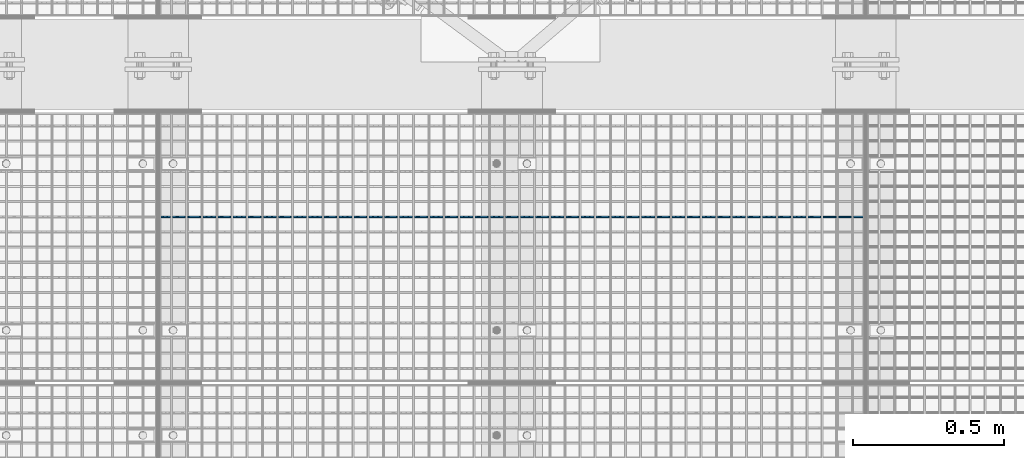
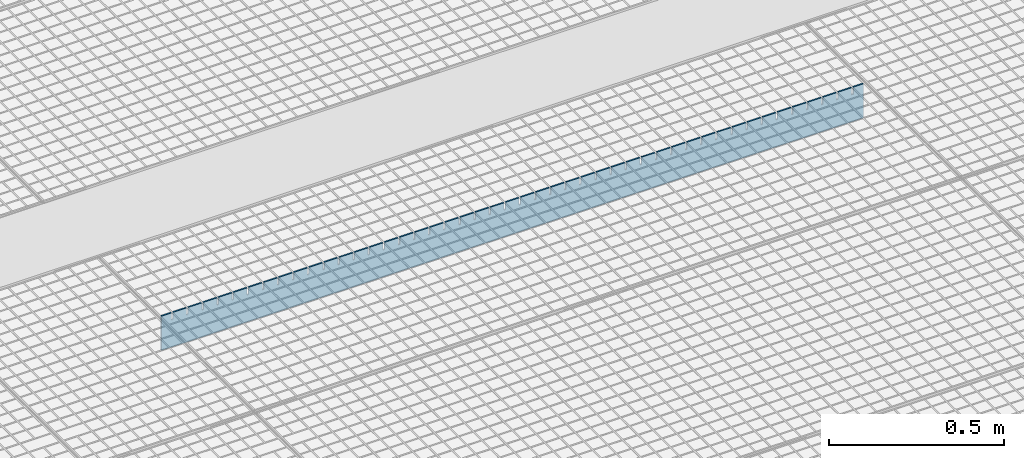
# One storey, part 388 of 1530: 1 beam.
"""IFC2X3 building model written with IfcOpenShell, lengths in millimetres."""

from ifc_helpers import new_model, si_unit, frame, origin_with_axes, place, context, subcontext, project, spatial, faceted_brep, material, type_object, element, save


model = new_model("IFC2X3")

# Units and contexts
model_context = context("Model", 3, precision=1e-05, world=origin_with_axes())
body_context = subcontext(model_context, "Body", "Model", "MODEL_VIEW")
ifc_project = project(units=[si_unit("LENGTHUNIT", "METRE", prefix="MILLI"), si_unit("AREAUNIT", "SQUARE_METRE"), si_unit("VOLUMEUNIT", "CUBIC_METRE"), si_unit("MASSUNIT", "GRAM", prefix="KILO"), si_unit("TIMEUNIT", "SECOND"), si_unit("PLANEANGLEUNIT", "RADIAN"), si_unit("SOLIDANGLEUNIT", "STERADIAN"), si_unit("THERMODYNAMICTEMPERATUREUNIT", "DEGREE_CELSIUS"), si_unit("LUMINOUSINTENSITYUNIT", "LUMEN")], contexts=[model_context])

# Site, building, storey
site_placement = place(None, origin_with_axes())
site = spatial("IfcSite", under=ifc_project, at=site_placement, Name="Brattvåg", CompositionType="ELEMENT")
building_placement = place(site_placement, origin_with_axes())
building = spatial("IfcBuilding", under=site, at=building_placement, Name="Undefined", CompositionType="ELEMENT")
storey_placement = place(building_placement, origin_with_axes())
storey = spatial("IfcBuildingStorey", under=building, at=storey_placement, Name="Undefined", CompositionType="ELEMENT", Elevation=0.0)

# Beam
ifc_material = material(Name="STEEL/S355J2")
beam_type = type_object("IfcBeamType", Name="120*5", PredefinedType="NOTDEFINED")
beam_placement = place(storey_placement, frame((5234.01317977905, 5496.99487304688, -59.9998626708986), z_axis=(0.0, 0.0, 1.0), x_axis=(-1.0, 1.99999855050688e-09, 0.0)))
element("IfcBeam", 1, at=beam_placement, inside=storey, type_object=beam_type, material=ifc_material, Name="GRATING", context=body_context, shape_type="Brep", body=[
    faceted_brep([(83.5790367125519, -2.50000000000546, 60.0000722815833), (83.5790367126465, -2.50000000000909, 35.0001373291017), (83.5790367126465, 2.50022888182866, 35.0001373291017), (83.5790367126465, 2.5, 60.0), (88.5790367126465, -2.50000000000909, 35.0001373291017), (88.5790367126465, 2.50022888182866, 35.0001373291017), (88.5790367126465, -2.50000000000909, 60.0001373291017), (88.5790367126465, 2.5, 60.0), (38.6284370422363, -2.50000000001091, 60.0001373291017), (38.6284370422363, 2.5, 60.0), (38.6284370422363, 2.49999999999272, 35.0001373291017), (38.6284370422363, -2.50000000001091, 35.0001373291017), (33.6284370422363, 2.49999999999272, 35.0001373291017), (33.6284370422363, -2.50000000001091, 35.0001373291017), (33.6284370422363, -2.5, 60.0), (33.6284370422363, 2.5, 60.0), (0.0, 2.5, 60.0), (0.0, -2.5, 60.0), (0.0, -2.5, -60.0), (0.0, 2.5, -60.0), (2319.99865722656, 2.5, -60.0), (2319.99865722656, -2.5, -60.0), (2319.99865722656, -2.5, 60.0), (2319.99865722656, 2.5, 60.0), (2286.37871932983, 2.5, 60.0), (2286.37871932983, -2.50000000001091, 60.0001373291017), (2286.37871932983, 2.49999999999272, 35.0001373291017), (2286.37871932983, -2.50000000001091, 35.0001373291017), (2281.37871932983, 2.49999999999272, 35.0001373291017), (2281.37871932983, -2.50000000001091, 35.0001373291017), (2281.37871932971, -2.50000000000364, 60.0000634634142), (2281.37871932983, 2.5, 60.0), (2236.42859649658, 2.5, 60.0), (2236.42859649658, -2.50000000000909, 60.0001373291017), (2236.42859649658, 2.50022888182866, 35.0001373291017), (2236.42859649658, -2.50000000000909, 35.0001373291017), (2231.42859649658, 2.50022888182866, 35.0001373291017), (2231.42859649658, -2.50000000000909, 35.0001373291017), (2231.42859649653, -2.50000000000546, 60.0000910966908), (2231.42859649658, 2.5, 60.0), (2186.47847366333, 2.5, 60.0), (2186.47847366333, -2.50000000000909, 60.0001373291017), (2186.47847366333, 2.50022888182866, 35.0001373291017), (2186.47847366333, -2.50000000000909, 35.0001373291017), (2181.47847366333, 2.50022888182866, 35.0001373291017), (2181.47847366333, -2.50000000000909, 35.0001373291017), (2181.47847366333, -2.5, 60.0), (2181.47847366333, 2.5, 60.0), (2136.52882766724, 2.5, 60.0), (2136.52882766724, -2.50000000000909, 60.0001373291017), (2136.52882766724, 2.50022888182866, 35.0001373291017), (2136.52882766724, -2.50000000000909, 35.0001373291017), (2131.52882766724, 2.50022888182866, 35.0001373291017), (2131.52882766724, -2.50000000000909, 35.0001373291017), (2131.52882766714, -2.50000000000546, 60.0000722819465), (2131.52882766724, 2.5, 60.0), (2086.57870483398, 2.5, 60.0), (2086.57870483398, -2.50000000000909, 60.0001373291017), (2086.57870483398, 2.50022888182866, 35.0001373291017), (2086.57870483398, -2.50000000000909, 35.0001373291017), (2081.57870483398, 2.50022888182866, 35.0001373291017), (2081.57870483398, -2.50000000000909, 35.0001373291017), (2081.57870483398, -2.5, 60.0), (2081.57870483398, 2.5, 60.0), (2036.62858200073, 2.5, 60.0), (2036.62858200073, -2.50000000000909, 60.0001373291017), (2036.62858200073, 2.50022888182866, 35.0001373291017), (2036.62858200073, -2.50000000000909, 35.0001373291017), (2031.62858200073, 2.50022888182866, 35.0001373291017), (2031.62858200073, -2.50000000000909, 35.0001373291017), (2031.62858200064, -2.50000000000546, 60.0000722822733), (2031.62858200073, 2.5, 60.0), (1986.67845916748, 2.5, 60.0), (1986.67845916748, -2.50000000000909, 60.0001373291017), (1986.67845916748, 2.50022888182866, 35.0001373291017), (1986.67845916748, -2.50000000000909, 35.0001373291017), (1981.67845916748, 2.50022888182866, 35.0001373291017), (1981.67845916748, -2.50000000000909, 35.0001373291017), (1981.67845916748, -2.5, 60.0), (1981.67845916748, 2.5, 60.0), (1936.72881317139, 2.5, 60.0), (1936.72881317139, -2.50000000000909, 60.0001373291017), (1936.72881317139, 2.50022888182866, 35.0001373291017), (1936.72881317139, -2.50000000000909, 35.0001373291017), (1931.72881317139, 2.50022888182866, 35.0001373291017), (1931.72881317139, -2.50000000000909, 35.0001373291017), (1931.72881317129, -2.50000000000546, 60.0000722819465), (1931.72881317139, 2.5, 60.0), (1886.77869033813, 2.5, 60.0), (1886.77869033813, -2.50000000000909, 60.0001373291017), (1886.77869033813, 2.50022888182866, 35.0001373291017), (1886.77869033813, -2.50000000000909, 35.0001373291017), (1881.77869033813, 2.50022888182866, 35.0001373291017), (1881.77869033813, -2.50000000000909, 35.0001373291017), (1881.77869033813, -2.5, 60.0), (1881.77869033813, 2.5, 60.0), (1836.82856750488, 2.5, 60.0), (1836.82856750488, -2.50000000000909, 60.0001373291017), (1836.82856750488, 2.50022888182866, 35.0001373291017), (1836.82856750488, -2.50000000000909, 35.0001373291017), (1831.82856750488, 2.50022888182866, 35.0001373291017), (1831.82856750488, -2.50000000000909, 35.0001373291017), (1831.82856750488, -2.5, 60.0), (1831.82856750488, 2.5, 60.0), (1786.87892150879, 2.5, 60.0), (1786.87892150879, -2.50000000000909, 60.0001373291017), (1786.87892150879, 2.50022888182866, 35.0001373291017), (1786.87892150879, -2.50000000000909, 35.0001373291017), (1781.87892150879, 2.50022888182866, 35.0001373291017), (1781.87892150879, -2.50000000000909, 35.0001373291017), (1781.87892150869, -2.50000000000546, 60.0000722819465), (1781.87892150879, 2.5, 60.0), (1736.92879867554, 2.5, 60.0), (1736.92879867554, -2.50000000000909, 60.0001373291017), (1736.92879867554, 2.50022888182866, 35.0001373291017), (1736.92879867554, -2.50000000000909, 35.0001373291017), (1731.92879867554, 2.50022888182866, 35.0001373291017), (1731.92879867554, -2.50000000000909, 35.0001373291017), (1731.92879867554, -2.5, 60.0), (1731.92879867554, 2.5, 60.0), (1686.97867584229, 2.5, 60.0), (1686.97867584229, -2.50000000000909, 60.0001373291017), (1686.97867584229, 2.50022888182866, 35.0001373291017), (1686.97867584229, -2.50000000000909, 35.0001373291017), (1681.97867584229, 2.50022888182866, 35.0001373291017), (1681.97867584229, -2.50000000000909, 35.0001373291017), (1681.97867584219, -2.50000000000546, 60.0000722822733), (1681.97867584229, 2.5, 60.0), (1637.02855300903, 2.5, 60.0), (1637.02855300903, -2.50000000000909, 60.0001373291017), (1637.02855300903, 2.50022888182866, 35.0001373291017), (1637.02855300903, -2.50000000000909, 35.0001373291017), (1632.02855300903, 2.50022888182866, 35.0001373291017), (1632.02855300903, -2.50000000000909, 35.0001373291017), (1632.02855300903, -2.5, 60.0), (1632.02855300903, 2.5, 60.0), (1587.07890701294, 2.5, 60.0), (1587.07890701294, -2.50000000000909, 60.0001373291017), (1587.07890701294, 2.50022888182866, 35.0001373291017), (1587.07890701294, -2.50000000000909, 35.0001373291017), (1582.07890701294, 2.50022888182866, 35.0001373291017), (1582.07890701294, -2.50000000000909, 35.0001373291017), (1582.07890701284, -2.50000000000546, 60.0000722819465), (1582.07890701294, 2.5, 60.0), (1537.12878417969, 2.5, 60.0), (1537.12878417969, -2.50000000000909, 60.0001373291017), (1537.12878417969, 2.50022888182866, 35.0001373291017), (1537.12878417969, -2.50000000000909, 35.0001373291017), (1532.12878417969, 2.50022888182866, 35.0001373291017), (1532.12878417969, -2.50000000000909, 35.0001373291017), (1532.12878417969, -2.5, 60.0), (1532.12878417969, 2.5, 60.0), (1487.17866134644, 2.5, 60.0), (1487.17866134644, -2.50000000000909, 60.0001373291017), (1487.17866134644, 2.50022888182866, 35.0001373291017), (1487.17866134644, -2.50000000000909, 35.0001373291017), (1482.17866134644, 2.50022888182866, 35.0001373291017), (1482.17866134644, -2.50000000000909, 35.0001373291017), (1482.17866134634, -2.50000000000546, 60.0000722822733), (1482.17866134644, 2.5, 60.0), (1437.22853851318, 2.5, 60.0), (1437.22853851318, -2.50000000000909, 60.0001373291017), (1437.22853851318, 2.50022888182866, 35.0001373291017), (1437.22853851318, -2.50000000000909, 35.0001373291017), (1432.22853851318, 2.50022888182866, 35.0001373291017), (1432.22853851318, -2.50000000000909, 35.0001373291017), (1432.22853851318, -2.5, 60.0), (1432.22853851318, 2.5, 60.0), (1387.27889251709, 2.5, 60.0), (1387.27889251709, -2.50000000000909, 60.0001373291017), (1387.27889251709, 2.50022888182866, 35.0001373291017), (1387.27889251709, -2.50000000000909, 35.0001373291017), (1382.27889251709, 2.50022888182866, 35.0001373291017), (1382.27889251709, -2.50000000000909, 35.0001373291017), (1382.278892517, -2.50000000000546, 60.0000722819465), (1382.27889251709, 2.5, 60.0), (1337.32876968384, 2.5, 60.0), (1337.32876968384, -2.50000000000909, 60.0001373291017), (1337.32876968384, 2.50022888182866, 35.0001373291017), (1337.32876968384, -2.50000000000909, 35.0001373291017), (1332.32876968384, 2.50022888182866, 35.0001373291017), (1332.32876968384, -2.50000000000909, 35.0001373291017), (1332.32876968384, -2.5, 60.0), (1332.32876968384, 2.5, 60.0), (1287.37864685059, 2.5, 60.0), (1287.37864685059, -2.50000000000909, 60.0001373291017), (1287.37864685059, 2.50022888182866, 35.0001373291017), (1287.37864685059, -2.50000000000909, 35.0001373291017), (1282.37864685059, 2.50022888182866, 35.0001373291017), (1282.37864685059, -2.50000000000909, 35.0001373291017), (1282.37864685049, -2.50000000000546, 60.0000722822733), (1282.37864685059, 2.5, 60.0), (1237.42852401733, 2.5, 60.0), (1237.42852401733, -2.50000000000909, 60.0001373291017), (1237.42852401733, 2.50022888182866, 35.0001373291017), (1237.42852401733, -2.50000000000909, 35.0001373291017), (1232.42852401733, 2.50022888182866, 35.0001373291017), (1232.42852401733, -2.50000000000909, 35.0001373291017), (1232.42852401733, -2.5, 60.0), (1232.42852401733, 2.5, 60.0), (1187.47887802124, 2.5, 60.0), (1187.47887802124, -2.50000000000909, 60.0001373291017), (1187.47887802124, 2.50022888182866, 35.0001373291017), (1187.47887802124, -2.50000000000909, 35.0001373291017), (1182.47887802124, 2.50022888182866, 35.0001373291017), (1182.47887802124, -2.50000000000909, 35.0001373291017), (1182.47887802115, -2.50000000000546, 60.0000722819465), (1182.47887802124, 2.5, 60.0), (1137.52875518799, 2.5, 60.0), (1137.52875518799, -2.50000000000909, 60.0001373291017), (1137.52875518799, 2.50022888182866, 35.0001373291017), (1137.52875518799, -2.50000000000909, 35.0001373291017), (1132.52875518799, 2.50022888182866, 35.0001373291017), (1132.52875518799, -2.50000000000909, 35.0001373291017), (1132.52875518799, -2.5, 60.0), (1132.52875518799, 2.5, 60.0), (1087.57863235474, 2.5, 60.0), (1087.57863235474, -2.50000000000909, 60.0001373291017), (1087.57863235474, 2.50022888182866, 35.0001373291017), (1087.57863235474, -2.50000000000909, 35.0001373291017), (1082.57863235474, 2.50022888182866, 35.0001373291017), (1082.57863235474, -2.50000000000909, 35.0001373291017), (1082.57863235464, -2.50000000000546, 60.0000722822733), (1082.57863235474, 2.5, 60.0), (1037.62850952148, 2.5, 60.0), (1037.62850952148, -2.50000000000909, 60.0001373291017), (1037.62850952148, 2.50022888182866, 35.0001373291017), (1037.62850952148, -2.50000000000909, 35.0001373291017), (1032.62850952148, 2.50022888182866, 35.0001373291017), (1032.62850952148, -2.50000000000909, 35.0001373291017), (1032.62850952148, -2.5, 60.0), (1032.62850952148, 2.5, 60.0), (987.678863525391, 2.5, 60.0), (987.678863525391, -2.50000000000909, 60.0001373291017), (987.678863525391, 2.50022888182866, 35.0001373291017), (987.678863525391, -2.50000000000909, 35.0001373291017), (982.678863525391, 2.50022888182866, 35.0001373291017), (982.678863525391, -2.50000000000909, 35.0001373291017), (982.678863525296, -2.50000000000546, 60.0000722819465), (982.678863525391, 2.5, 60.0), (937.728740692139, 2.5, 60.0), (937.728740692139, -2.50000000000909, 60.0001373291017), (937.728740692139, 2.50022888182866, 35.0001373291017), (937.728740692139, -2.50000000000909, 35.0001373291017), (932.728740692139, 2.50022888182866, 35.0001373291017), (932.728740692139, -2.50000000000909, 35.0001373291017), (932.728740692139, -2.5, 60.0), (932.728740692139, 2.5, 60.0), (887.778617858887, 2.5, 60.0), (887.778617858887, -2.50000000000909, 60.0001373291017), (887.778617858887, 2.50022888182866, 35.0001373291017), (887.778617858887, -2.50000000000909, 35.0001373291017), (882.778617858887, 2.50022888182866, 35.0001373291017), (882.778617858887, -2.50000000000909, 35.0001373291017), (882.778617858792, -2.50000000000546, 60.0000722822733), (882.778617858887, 2.5, 60.0), (837.828495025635, 2.5, 60.0), (837.828495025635, -2.50000000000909, 60.0001373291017), (837.828495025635, 2.50022888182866, 35.0001373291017), (837.828495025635, -2.50000000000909, 35.0001373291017), (832.828495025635, 2.50022888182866, 35.0001373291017), (832.828495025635, -2.50000000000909, 35.0001373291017), (832.828495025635, -2.5, 60.0), (832.828495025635, 2.5, 60.0), (787.878849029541, 2.5, 60.0), (787.878849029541, -2.50000000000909, 60.0001373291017), (787.878849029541, 2.50022888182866, 35.0001373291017), (787.878849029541, -2.50000000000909, 35.0001373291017), (782.878849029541, 2.50022888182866, 35.0001373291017), (782.878849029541, -2.50000000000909, 35.0001373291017), (782.878849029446, -2.50000000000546, 60.0000722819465), (782.878849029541, 2.5, 60.0), (737.928726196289, 2.5, 60.0), (737.928726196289, -2.50000000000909, 60.0001373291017), (737.928726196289, 2.50022888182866, 35.0001373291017), (737.928726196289, -2.50000000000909, 35.0001373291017), (732.928726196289, 2.50022888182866, 35.0001373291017), (732.928726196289, -2.50000000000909, 35.0001373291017), (732.928726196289, -2.5, 60.0), (732.928726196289, 2.5, 60.0), (687.978603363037, 2.5, 60.0), (687.978603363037, -2.50000000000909, 60.0001373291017), (687.978603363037, 2.50022888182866, 35.0001373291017), (687.978603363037, -2.50000000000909, 35.0001373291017), (682.978603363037, 2.50022888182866, 35.0001373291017), (682.978603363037, -2.50000000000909, 35.0001373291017), (682.978603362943, -2.50000000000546, 60.0000722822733), (682.978603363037, 2.5, 60.0), (638.028480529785, 2.5, 60.0), (638.028480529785, -2.50000000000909, 60.0001373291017), (638.028480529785, 2.50022888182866, 35.0001373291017), (638.028480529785, -2.50000000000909, 35.0001373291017), (633.028480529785, 2.50022888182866, 35.0001373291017), (633.028480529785, -2.50000000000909, 35.0001373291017), (633.028480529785, -2.5, 60.0), (633.028480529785, 2.5, 60.0), (588.078834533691, 2.5, 60.0), (588.078834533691, -2.50000000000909, 60.0001373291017), (588.078834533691, 2.50022888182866, 35.0001373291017), (588.078834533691, -2.50000000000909, 35.0001373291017), (583.078834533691, 2.50022888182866, 35.0001373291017), (583.078834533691, -2.50000000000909, 35.0001373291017), (583.078834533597, -2.50000000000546, 60.0000722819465), (583.078834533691, 2.5, 60.0), (538.128711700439, 2.5, 60.0), (538.128711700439, -2.50000000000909, 60.0001373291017), (538.128711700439, 2.50022888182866, 35.0001373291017), (538.128711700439, -2.50000000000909, 35.0001373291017), (533.128711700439, 2.50022888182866, 35.0001373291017), (533.128711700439, -2.50000000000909, 35.0001373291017), (533.128711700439, -2.5, 60.0), (533.128711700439, 2.5, 60.0), (488.178588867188, 2.5, 60.0), (488.178588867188, -2.50000000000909, 60.0001373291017), (488.178588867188, 2.50022888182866, 35.0001373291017), (488.178588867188, -2.50000000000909, 35.0001373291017), (483.178588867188, 2.50022888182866, 35.0001373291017), (483.178588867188, -2.50000000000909, 35.0001373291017), (483.178588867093, -2.50000000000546, 60.0000722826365), (483.178588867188, 2.5, 60.0), (438.228942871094, 2.5, 60.0), (438.228942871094, -2.50000000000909, 60.0001373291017), (438.228942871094, 2.50022888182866, 35.0001373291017), (438.228942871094, -2.50000000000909, 35.0001373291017), (433.228942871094, 2.50022888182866, 35.0001373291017), (433.228942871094, -2.50000000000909, 35.0001373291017), (433.228942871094, -2.5, 60.0), (433.228942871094, 2.5, 60.0), (388.278820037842, 2.5, 60.0), (388.278820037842, -2.50000000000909, 60.0001373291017), (388.278820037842, 2.50022888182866, 35.0001373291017), (388.278820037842, -2.50000000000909, 35.0001373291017), (383.278820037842, 2.50022888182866, 35.0001373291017), (383.278820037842, -2.50000000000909, 35.0001373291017), (383.278820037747, -2.50000000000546, 60.0000722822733), (383.278820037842, 2.5, 60.0), (338.32869720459, 2.5, 60.0), (338.32869720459, -2.50000000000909, 60.0001373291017), (338.32869720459, 2.50022888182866, 35.0001373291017), (338.32869720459, -2.50000000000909, 35.0001373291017), (333.32869720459, 2.50022888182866, 35.0001373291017), (333.32869720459, -2.50000000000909, 35.0001373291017), (333.32869720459, -2.5, 60.0), (333.32869720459, 2.5, 60.0), (288.378574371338, 2.5, 60.0), (288.378574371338, -2.50000000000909, 60.0001373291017), (288.378574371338, 2.50022888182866, 35.0001373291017), (288.378574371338, -2.50000000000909, 35.0001373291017), (283.378574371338, 2.50022888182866, 35.0001373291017), (283.378574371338, -2.50000000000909, 35.0001373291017), (283.378574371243, -2.50000000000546, 60.0000722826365), (283.378574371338, 2.5, 60.0), (238.428928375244, 2.5, 60.0), (238.428928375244, -2.50000000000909, 60.0001373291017), (238.428928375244, 2.50022888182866, 35.0001373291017), (238.428928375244, -2.50000000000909, 35.0001373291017), (233.428928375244, 2.50022888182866, 35.0001373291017), (233.428928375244, -2.50000000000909, 35.0001373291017), (233.428928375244, -2.5, 60.0), (233.428928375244, 2.5, 60.0), (188.478328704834, 2.5, 60.0), (188.478328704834, -2.50000000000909, 60.0001373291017), (188.478328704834, 2.50022888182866, 35.0001373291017), (188.478328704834, -2.50000000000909, 35.0001373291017), (183.478328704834, 2.50022888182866, 35.0001373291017), (183.478328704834, -2.50000000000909, 35.0001373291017), (183.478328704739, -2.50000000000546, 60.0000722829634), (183.478328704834, 2.5, 60.0), (138.52868270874, 2.5, 60.0), (138.52868270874, -2.50000000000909, 60.0001373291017), (138.52868270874, 2.50022888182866, 35.0001373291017), (138.52868270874, -2.50000000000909, 35.0001373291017), (133.52868270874, 2.50022888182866, 35.0001373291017), (133.52868270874, -2.50000000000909, 35.0001373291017), (133.52868270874, -2.5, 60.0), (133.52868270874, 2.5, 60.0)], [[[0, 1, 2, 3]], [[4, 5, 2, 1]], [[6, 7, 5, 4]], [[8, 9, 10, 11]], [[11, 10, 12, 13]], [[14, 13, 12, 15]], [[16, 17, 14, 15]], [[18, 17, 16, 19]], [[18, 19, 20, 21]], [[22, 21, 20, 23]], [[22, 23, 24, 25]], [[25, 24, 26, 27]], [[27, 26, 28, 29]], [[30, 29, 28, 31]], [[32, 33, 30, 31]], [[33, 32, 34, 35]], [[35, 34, 36, 37]], [[38, 37, 36, 39]], [[40, 41, 38, 39]], [[41, 40, 42, 43]], [[43, 42, 44, 45]], [[46, 45, 44, 47]], [[46, 47, 48, 49]], [[49, 48, 50, 51]], [[51, 50, 52, 53]], [[54, 53, 52, 55]], [[56, 57, 54, 55]], [[57, 56, 58, 59]], [[59, 58, 60, 61]], [[62, 61, 60, 63]], [[62, 63, 64, 65]], [[65, 64, 66, 67]], [[67, 66, 68, 69]], [[70, 69, 68, 71]], [[72, 73, 70, 71]], [[73, 72, 74, 75]], [[75, 74, 76, 77]], [[78, 77, 76, 79]], [[78, 79, 80, 81]], [[81, 80, 82, 83]], [[83, 82, 84, 85]], [[86, 85, 84, 87]], [[88, 89, 86, 87]], [[89, 88, 90, 91]], [[91, 90, 92, 93]], [[94, 93, 92, 95]], [[94, 95, 96, 97]], [[97, 96, 98, 99]], [[99, 98, 100, 101]], [[102, 101, 100, 103]], [[102, 103, 104, 105]], [[105, 104, 106, 107]], [[107, 106, 108, 109]], [[110, 109, 108, 111]], [[112, 113, 110, 111]], [[113, 112, 114, 115]], [[115, 114, 116, 117]], [[118, 117, 116, 119]], [[118, 119, 120, 121]], [[121, 120, 122, 123]], [[123, 122, 124, 125]], [[126, 125, 124, 127]], [[128, 129, 126, 127]], [[129, 128, 130, 131]], [[131, 130, 132, 133]], [[134, 133, 132, 135]], [[134, 135, 136, 137]], [[137, 136, 138, 139]], [[139, 138, 140, 141]], [[142, 141, 140, 143]], [[144, 145, 142, 143]], [[145, 144, 146, 147]], [[147, 146, 148, 149]], [[150, 149, 148, 151]], [[150, 151, 152, 153]], [[153, 152, 154, 155]], [[155, 154, 156, 157]], [[158, 157, 156, 159]], [[160, 161, 158, 159]], [[161, 160, 162, 163]], [[163, 162, 164, 165]], [[166, 165, 164, 167]], [[166, 167, 168, 169]], [[169, 168, 170, 171]], [[171, 170, 172, 173]], [[174, 173, 172, 175]], [[176, 177, 174, 175]], [[177, 176, 178, 179]], [[179, 178, 180, 181]], [[182, 181, 180, 183]], [[182, 183, 184, 185]], [[185, 184, 186, 187]], [[187, 186, 188, 189]], [[190, 189, 188, 191]], [[192, 193, 190, 191]], [[193, 192, 194, 195]], [[195, 194, 196, 197]], [[198, 197, 196, 199]], [[198, 199, 200, 201]], [[201, 200, 202, 203]], [[203, 202, 204, 205]], [[206, 205, 204, 207]], [[208, 209, 206, 207]], [[209, 208, 210, 211]], [[211, 210, 212, 213]], [[214, 213, 212, 215]], [[214, 215, 216, 217]], [[217, 216, 218, 219]], [[219, 218, 220, 221]], [[222, 221, 220, 223]], [[224, 225, 222, 223]], [[225, 224, 226, 227]], [[227, 226, 228, 229]], [[230, 229, 228, 231]], [[230, 231, 232, 233]], [[233, 232, 234, 235]], [[235, 234, 236, 237]], [[238, 237, 236, 239]], [[240, 241, 238, 239]], [[241, 240, 242, 243]], [[243, 242, 244, 245]], [[246, 245, 244, 247]], [[246, 247, 248, 249]], [[249, 248, 250, 251]], [[251, 250, 252, 253]], [[254, 253, 252, 255]], [[256, 257, 254, 255]], [[257, 256, 258, 259]], [[259, 258, 260, 261]], [[262, 261, 260, 263]], [[262, 263, 264, 265]], [[265, 264, 266, 267]], [[267, 266, 268, 269]], [[270, 269, 268, 271]], [[272, 273, 270, 271]], [[273, 272, 274, 275]], [[275, 274, 276, 277]], [[278, 277, 276, 279]], [[278, 279, 280, 281]], [[281, 280, 282, 283]], [[283, 282, 284, 285]], [[286, 285, 284, 287]], [[288, 289, 286, 287]], [[289, 288, 290, 291]], [[291, 290, 292, 293]], [[294, 293, 292, 295]], [[294, 295, 296, 297]], [[297, 296, 298, 299]], [[299, 298, 300, 301]], [[302, 301, 300, 303]], [[304, 305, 302, 303]], [[305, 304, 306, 307]], [[307, 306, 308, 309]], [[310, 309, 308, 311]], [[310, 311, 312, 313]], [[313, 312, 314, 315]], [[315, 314, 316, 317]], [[318, 317, 316, 319]], [[320, 321, 318, 319]], [[321, 320, 322, 323]], [[323, 322, 324, 325]], [[326, 325, 324, 327]], [[326, 327, 328, 329]], [[329, 328, 330, 331]], [[331, 330, 332, 333]], [[334, 333, 332, 335]], [[336, 337, 334, 335]], [[337, 336, 338, 339]], [[339, 338, 340, 341]], [[342, 341, 340, 343]], [[342, 343, 344, 345]], [[345, 344, 346, 347]], [[347, 346, 348, 349]], [[350, 349, 348, 351]], [[352, 353, 350, 351]], [[353, 352, 354, 355]], [[355, 354, 356, 357]], [[358, 357, 356, 359]], [[358, 359, 360, 361]], [[361, 360, 362, 363]], [[363, 362, 364, 365]], [[366, 365, 364, 367]], [[368, 369, 366, 367]], [[369, 368, 370, 371]], [[371, 370, 372, 373]], [[374, 373, 372, 375]], [[1, 0, 8, 11, 13, 14, 17, 18, 21, 22, 25, 27, 29, 30, 33, 35, 37, 38, 41, 43, 45, 46, 49, 51, 53, 54, 57, 59, 61, 62, 65, 67, 69, 70, 73, 75, 77, 78, 81, 83, 85, 86, 89, 91, 93, 94, 97, 99, 101, 102, 105, 107, 109, 110, 113, 115, 117, 118, 121, 123, 125, 126, 129, 131, 133, 134, 137, 139, 141, 142, 145, 147, 149, 150, 153, 155, 157, 158, 161, 163, 165, 166, 169, 171, 173, 174, 177, 179, 181, 182, 185, 187, 189, 190, 193, 195, 197, 198, 201, 203, 205, 206, 209, 211, 213, 214, 217, 219, 221, 222, 225, 227, 229, 230, 233, 235, 237, 238, 241, 243, 245, 246, 249, 251, 253, 254, 257, 259, 261, 262, 265, 267, 269, 270, 273, 275, 277, 278, 281, 283, 285, 286, 289, 291, 293, 294, 297, 299, 301, 302, 305, 307, 309, 310, 313, 315, 317, 318, 321, 323, 325, 326, 329, 331, 333, 334, 337, 339, 341, 342, 345, 347, 349, 350, 353, 355, 357, 358, 361, 363, 365, 366, 369, 371, 373, 374, 6, 4]], [[9, 8, 0, 3]], [[375, 372, 370, 368, 367, 364, 362, 360, 359, 356, 354, 352, 351, 348, 346, 344, 343, 340, 338, 336, 335, 332, 330, 328, 327, 324, 322, 320, 319, 316, 314, 312, 311, 308, 306, 304, 303, 300, 298, 296, 295, 292, 290, 288, 287, 284, 282, 280, 279, 276, 274, 272, 271, 268, 266, 264, 263, 260, 258, 256, 255, 252, 250, 248, 247, 244, 242, 240, 239, 236, 234, 232, 231, 228, 226, 224, 223, 220, 218, 216, 215, 212, 210, 208, 207, 204, 202, 200, 199, 196, 194, 192, 191, 188, 186, 184, 183, 180, 178, 176, 175, 172, 170, 168, 167, 164, 162, 160, 159, 156, 154, 152, 151, 148, 146, 144, 143, 140, 138, 136, 135, 132, 130, 128, 127, 124, 122, 120, 119, 116, 114, 112, 111, 108, 106, 104, 103, 100, 98, 96, 95, 92, 90, 88, 87, 84, 82, 80, 79, 76, 74, 72, 71, 68, 66, 64, 63, 60, 58, 56, 55, 52, 50, 48, 47, 44, 42, 40, 39, 36, 34, 32, 31, 28, 26, 24, 23, 20, 19, 16, 15, 12, 10, 9, 3, 2, 5, 7]], [[374, 375, 7, 6]]]),
])

save(model, "model.ifc")
